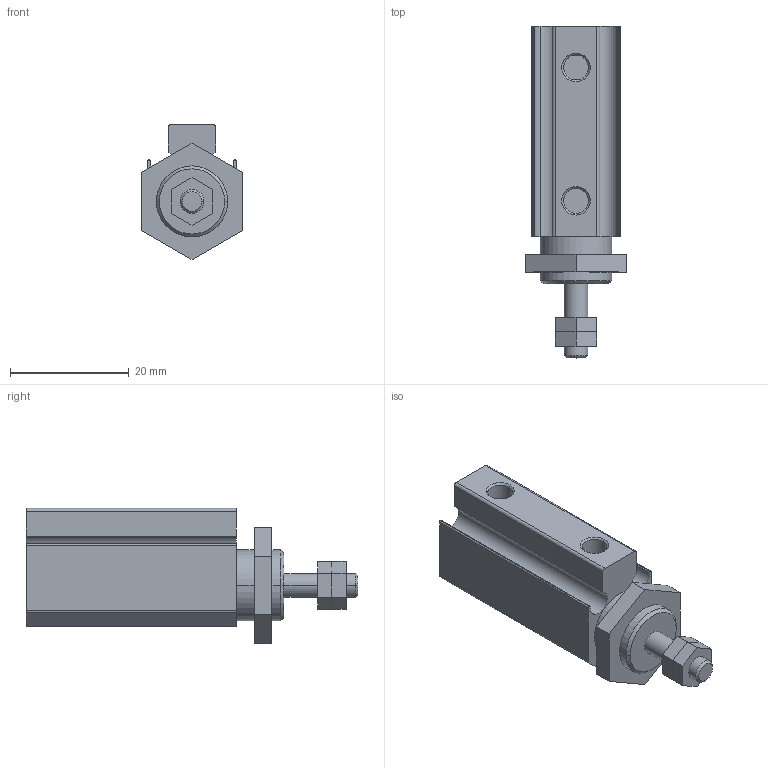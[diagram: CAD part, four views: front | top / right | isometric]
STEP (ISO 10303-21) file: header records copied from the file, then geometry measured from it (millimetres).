
FILE_DESCRIPTION((''),'2;1');
FILE_NAME('B:\CHANTO-3D-已完成\NEW\AAP\AAP-3D\AAP10X10.stp','2010-08-19T19:43:26',('Administrator'),(''),'Autodesk Inventor 8','Autodesk Inventor 8','');
FILE_SCHEMA(('AUTOMOTIVE_DESIGN { 1 0 10303 214 1 1 1 1 }'));
Length unit declared in the file: millimetre
Products named in the file (1): AAP10X10
Bounding box: 17 x 56 x 22.82 mm (x, y, z)
Volume: 9717.8 mm3; surface area: 4255.3 mm2
Topology: 1 solids, 1 shells, 76 faces, 184 edges, 120 vertices
Faces by surface type: plane 40, cylinder 28, cone 8
Entity records: 2251 total; most frequent: DIRECTION 402, CARTESIAN_POINT 381, ORIENTED_EDGE 368, EDGE_CURVE 184, AXIS2_PLACEMENT_3D 141, VERTEX_POINT 120, VECTOR 120, LINE 120
